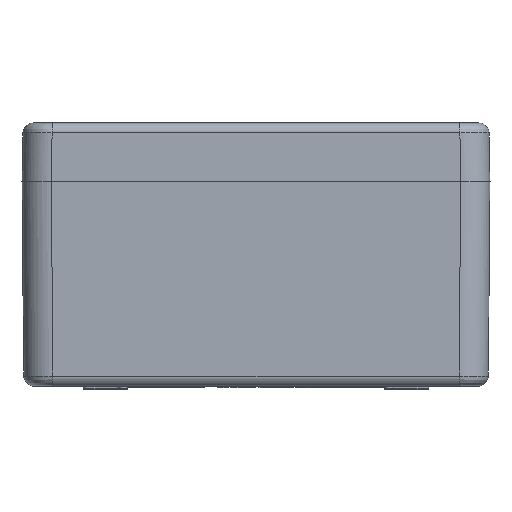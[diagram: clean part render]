
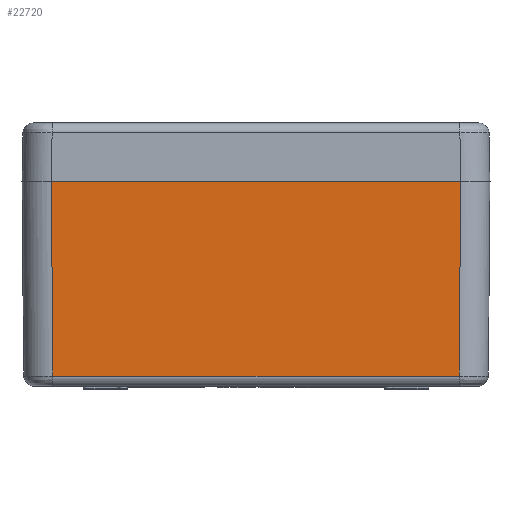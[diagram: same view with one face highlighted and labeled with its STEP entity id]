
A CAD part, left-side view. The second image highlights one B-rep face of the part: STEP entity #22720.
In plain terms, the highlighted planar face has unit normal (-1, 0, -0.009).
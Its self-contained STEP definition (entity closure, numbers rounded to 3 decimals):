
#220 = ORIENTED_EDGE ( 'NONE', *, *, #24135, .F. ) ;
#372 = FACE_OUTER_BOUND ( 'NONE', #20762, .T. ) ;
#883 = VECTOR ( 'NONE', #9722, 1000. ) ;
#1083 = LINE ( 'NONE', #26336, #9388 ) ;
#1154 = CARTESIAN_POINT ( 'NONE',  ( -180., -70., 0. ) ) ;
#1721 = LINE ( 'NONE', #27966, #883 ) ;
#3814 = VECTOR ( 'NONE', #32989, 1000. ) ;
#3855 = DIRECTION ( 'NONE',  ( 0., 1., 0. ) ) ;
#4323 = VERTEX_POINT ( 'NONE', #1154 ) ;
#5035 = DIRECTION ( 'NONE',  ( -0.009, 0., 1. ) ) ;
#6322 = ORIENTED_EDGE ( 'NONE', *, *, #7615, .F. ) ;
#7601 = DIRECTION ( 'NONE',  ( -1., 0., -0.009 ) ) ;
#7615 = EDGE_CURVE ( 'NONE', #12846, #29123, #1721, .T. ) ;
#8386 = LINE ( 'NONE', #9484, #3814 ) ;
#9388 = VECTOR ( 'NONE', #14185, 1000. ) ;
#9484 = CARTESIAN_POINT ( 'NONE',  ( -179.419, -69.42, -66.531 ) ) ;
#9722 = DIRECTION ( 'NONE',  ( -0.009, 0.009, 1. ) ) ;
#12846 = VERTEX_POINT ( 'NONE', #29939 ) ;
#14185 = DIRECTION ( 'NONE',  ( 0., 1., 0. ) ) ;
#14269 = AXIS2_PLACEMENT_3D ( 'NONE', #32956, #7601, #5035 ) ;
#14613 = PLANE ( 'NONE',  #14269 ) ;
#17007 = CARTESIAN_POINT ( 'NONE',  ( -179.419, 80., -66.531 ) ) ;
#17664 = CARTESIAN_POINT ( 'NONE',  ( -180., 70., 0. ) ) ;
#18066 = EDGE_CURVE ( 'NONE', #25726, #4323, #8386, .T. ) ;
#18246 = CARTESIAN_POINT ( 'NONE',  ( -179.419, -69.42, -66.531 ) ) ;
#20762 = EDGE_LOOP ( 'NONE', ( #26505, #21342, #6322, #220 ) ) ;
#21342 = ORIENTED_EDGE ( 'NONE', *, *, #30473, .T. ) ;
#21794 = LINE ( 'NONE', #17007, #25870 ) ;
#22720 = ADVANCED_FACE ( 'NONE', ( #372 ), #14613, .T. ) ;
#24135 = EDGE_CURVE ( 'NONE', #25726, #12846, #21794, .T. ) ;
#25726 = VERTEX_POINT ( 'NONE', #18246 ) ;
#25870 = VECTOR ( 'NONE', #3855, 1000. ) ;
#26336 = CARTESIAN_POINT ( 'NONE',  ( -180., -80., 0. ) ) ;
#26505 = ORIENTED_EDGE ( 'NONE', *, *, #18066, .T. ) ;
#27966 = CARTESIAN_POINT ( 'NONE',  ( -179.989, 69.989, -1.309 ) ) ;
#29123 = VERTEX_POINT ( 'NONE', #17664 ) ;
#29939 = CARTESIAN_POINT ( 'NONE',  ( -179.419, 69.42, -66.531 ) ) ;
#30473 = EDGE_CURVE ( 'NONE', #4323, #29123, #1083, .T. ) ;
#32956 = CARTESIAN_POINT ( 'NONE',  ( -180., -80., 0. ) ) ;
#32989 = DIRECTION ( 'NONE',  ( -0.009, -0.009, 1. ) ) ;
